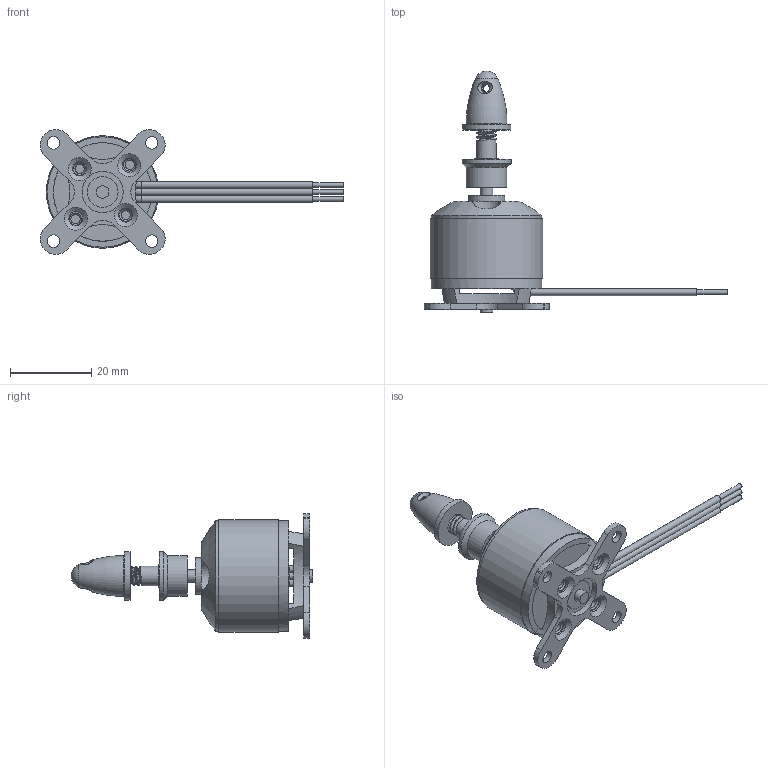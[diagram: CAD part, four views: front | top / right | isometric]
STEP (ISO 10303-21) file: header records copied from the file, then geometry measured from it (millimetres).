
FILE_DESCRIPTION(/* description */ ('STEP AP214','CAx-IF Rec.Pracs.---User Defined Attributes---1.5---2016-08-15'),/* implementation_level */ '2;1');
FILE_NAME(/* name */ '6adecb9c98f5f667e212c95a',/* time_stamp */ '2026-10-26T03:40:13Z',/* author */ (''),/* organization */ (''),/* preprocessor_version */ 'ST-DEVELOPER v20',/* originating_system */ 'ONSHAPE BY PTC INC, 1.222',/* authorisation */ ' ');
FILE_SCHEMA (('AUTOMOTIVE_DESIGN {1 0 10303 214 3 1 1}'));
Length unit declared in the file: metre
Products named in the file (10): Motor (Assembly); BLDC_A2212_13T_1000KV_MountPlate-1; BLDC_A2212_13T_1000KV_PropThread-1; BLDC_A2212_13T_1000KV_PropNut-1; BLDC_A2212_13T_1000KV-1 (4) <1>; BLDC_A2212_13T_1000KV-1; BLDC_A2212_13T_1000KV_PropCollar-1
Assembly tree (9 placements, depth 3):
  Motor (Assembly)
    BLDC_A2212_13T_1000KV_MountPlate-1
    BLDC_A2212_13T_1000KV_PropThread-1
    BLDC_A2212_13T_1000KV_PropNut-1
    BLDC_A2212_13T_1000KV-1 (4) <1>
      BLDC_A2212_13T_1000KV-1
      BLDC_A2212_13T_1000KV-1
      BLDC_A2212_13T_1000KV-1
      BLDC_A2212_13T_1000KV-1
    BLDC_A2212_13T_1000KV_PropCollar-1
Bounding box: 74.65 x 59.44 x 30.69 mm (x, y, z)
Volume: 13530.4 mm3; surface area: 8481.6 mm2
Topology: 8 solids, 8 shells, 193 faces, 494 edges, 319 vertices
Faces by surface type: cylinder 80, plane 71, cone 23, bspline 11, torus 7, sphere 1
Full cylindrical faces by diameter (mm): 1.143 x3, 1.651 x6, 2.032 x1, 2.261 x4, 3.048 x4, 3.111 x2, 3.302 x1, 3.454 x4, 4.064 x1, 4.826 x9, 5.791 x1, 6.985 x4, 7.62 x1, 8.89 x1, 10.008 x1, 10.033 x1, 10.16 x1, 11.836 x1, 12.065 x1, 24.232 x1, 27.178 x2, 27.686 x1
Entity records: 10441 total; most frequent: CARTESIAN_POINT 6091, DIRECTION 833, ORIENTED_EDGE 744, AXIS2_PLACEMENT_3D 375, EDGE_CURVE 372, EDGE_LOOP 291, FACE_BOUND 291, VERTEX_POINT 275
